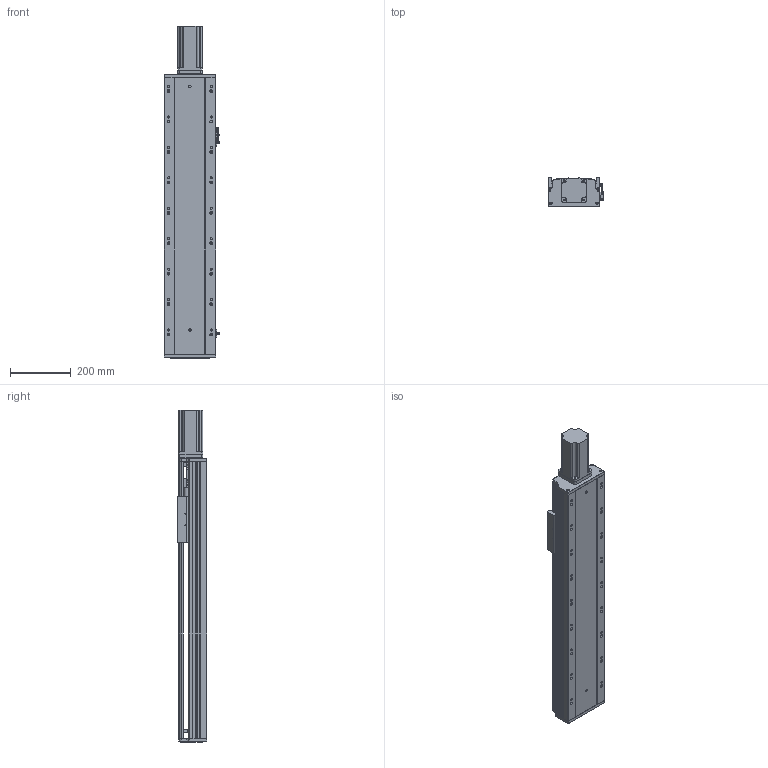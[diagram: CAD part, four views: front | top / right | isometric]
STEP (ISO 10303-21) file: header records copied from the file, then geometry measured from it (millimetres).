
FILE_DESCRIPTION (( 'STEP AP203' ), '1' );
FILE_NAME ('RY170-L2510-300-MK(FK17).SLDASM_600.step', '2022-08-23T02:00:25', ( '' ), ( '' ), 'SwSTEP 2.0', 'SolidWorks 2016', '' );
FILE_SCHEMA (( 'CONFIG_CONTROL_DESIGN' ));
Length unit declared in the file: millimetre
Products named in the file (15): 覜茼ん672; 侂狟750W萇儂ㄗ80遺ㄘ; 750W萇儂梓袧蛌諉啣; RY170臏賑輸25佪裝蹟譫; RY170外置感应片(200共用）; 滅袉蝶18-28; 滅袉蝶18-10; 15; RY170-300倰第菁釱-MK_600; RY170ヶ醱裔啣; 侂狟400W侜督萇儂; RY170电机端支撑座(25丝杆7004轴承)-压铸(FK17); RY170綴裔啣; RY170-300倰第裔啣-MK_600; RY170-L2510-300-MK(FK17).SLDASM_600
Assembly tree (16 placements, depth 3):
  RY170-L2510-300-MK(FK17).SLDASM_600
    RY170-300倰第菁釱-MK_600
    RY170-300倰第裔啣-MK_600
    RY170臏賑輸25佪裝蹟譫
    侂狟400W侜督萇儂
      15
    RY170綴裔啣
    RY170电机端支撑座(25丝杆7004轴承)-压铸(FK17)
    覜茼ん672  x3
    RY170外置感应片(200共用）
    RY170ヶ醱裔啣
    滅袉蝶18-28
    滅袉蝶18-10
    侂狟750W萇儂ㄗ80遺ㄘ
    750W萇儂梓袧蛌諉啣
Bounding box: 183.7 x 97 x 1091 mm (x, y, z)
Volume: 6064274.7 mm3; surface area: 1713443.7 mm2
Topology: 15 solids, 15 shells, 2211 faces, 6379 edges, 4086 vertices
Faces by surface type: plane 1014, cylinder 934, cone 227, bspline 36
Entity records: 72211 total; most frequent: CARTESIAN_POINT 16990, ORIENTED_EDGE 11498, DIRECTION 11007, EDGE_CURVE 5749, AXIS2_PLACEMENT_3D 3828, VERTEX_POINT 3766, LINE 3351, VECTOR 3351
